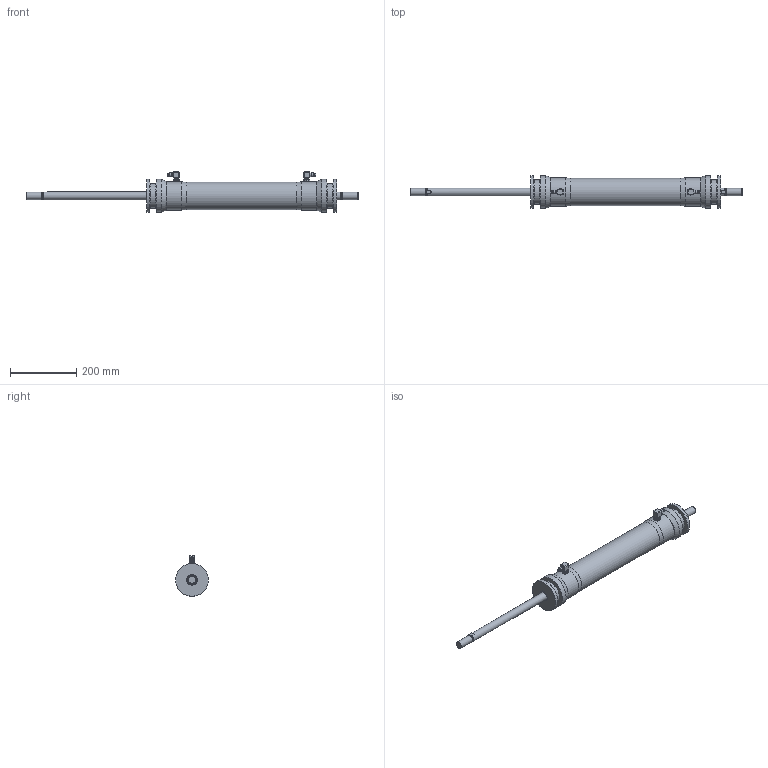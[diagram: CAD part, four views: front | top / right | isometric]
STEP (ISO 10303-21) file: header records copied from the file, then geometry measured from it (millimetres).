
FILE_DESCRIPTION(/* description */ (''),/* implementation_level */ '2;1');
FILE_NAME(/* name */ 'C:\STP.CR\TDA-71_Simplify_1 Rev1.stp',/* time_stamp */ '2021-11-02T11:28:10+00:00',/* author */ ('AL'),/* organization */ (''),/* preprocessor_version */ 'ST-DEVELOPER v18.1',/* originating_system */ 'Autodesk Inventor 2022',/* authorisation */ '');
FILE_SCHEMA (('AUTOMOTIVE_DESIGN { 1 0 10303 214 3 1 1 }'));
Length unit declared in the file: millimetre
Products named in the file (1): TDA-71_Simplify_1
Bounding box: 1005.1 x 99.6 x 123.4 mm (x, y, z)
Volume: 3450517.2 mm3; surface area: 233265.3 mm2
Topology: 1 solids, 1 shells, 177 faces, 365 edges, 222 vertices
Faces by surface type: plane 80, cylinder 43, cone 38, torus 16
Full cylindrical faces by diameter (mm): 10.01 x4, 11.01 x2, 11.11 x2, 11.157 x2, 12.157 x2, 13.157 x4, 18.3 x4, 19.774 x2, 22.174 x2, 24 x2, 26 x2, 28 x2, 29 x2, 32.6 x2, 74 x2, 82.6 x1, 85.6 x2, 99.6 x4
Entity records: 4921 total; most frequent: CARTESIAN_POINT 883, DIRECTION 851, ORIENTED_EDGE 730, EDGE_CURVE 365, AXIS2_PLACEMENT_3D 346, VERTEX_POINT 222, EDGE_LOOP 209, STYLED_ITEM 178
